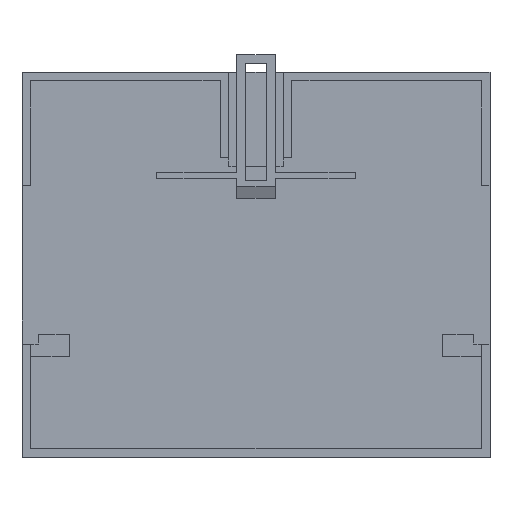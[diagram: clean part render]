
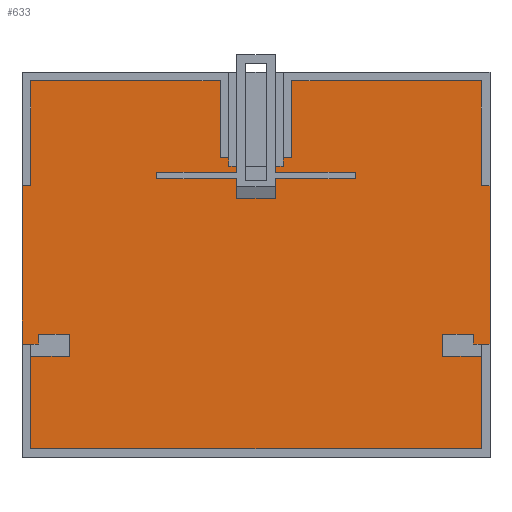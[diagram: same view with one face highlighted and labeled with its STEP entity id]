
A CAD part, front view. The second image highlights one B-rep face of the part: STEP entity #633.
In plain terms, the highlighted planar face has unit normal (0, -1, 0).
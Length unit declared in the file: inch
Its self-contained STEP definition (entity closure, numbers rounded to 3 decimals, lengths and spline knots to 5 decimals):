
#268=CARTESIAN_POINT('',(-0.17,0.2,0.694));
#269=VERTEX_POINT('',#268);
#276=CARTESIAN_POINT('',(0.17,0.2,0.694));
#277=VERTEX_POINT('',#276);
#278=CARTESIAN_POINT('',(0.17,0.2,0.694));
#279=DIRECTION('',(-1.0,0.0,0.0));
#280=VECTOR('',#279,0.34);
#281=LINE('',#278,#280);
#282=EDGE_CURVE('',#277,#269,#281,.T.);
#387=CARTESIAN_POINT('',(0.17,0.2,0.8625));
#388=VERTEX_POINT('',#387);
#395=CARTESIAN_POINT('',(0.24,0.2,0.8625));
#396=VERTEX_POINT('',#395);
#397=CARTESIAN_POINT('',(0.24,0.2,0.8625));
#398=DIRECTION('',(-1.0,0.0,0.0));
#399=VECTOR('',#398,0.07);
#400=LINE('',#397,#399);
#401=EDGE_CURVE('',#396,#388,#400,.T.);
#420=CARTESIAN_POINT('',(2.05,0.2,-0.694));
#421=DIRECTION('',(0.0,1.0,0.0));
#422=DIRECTION('',(0.0,0.0,1.0));
#423=AXIS2_PLACEMENT_3D('',#420,#421,#422);
#424=PLANE('',#423);
#425=CARTESIAN_POINT('',(-0.17,0.2,0.8625));
#426=VERTEX_POINT('',#425);
#427=CARTESIAN_POINT('',(-0.17,0.2,0.694));
#428=DIRECTION('',(0.0,0.0,1.0));
#429=VECTOR('',#428,0.1685);
#430=LINE('',#427,#429);
#431=EDGE_CURVE('',#269,#426,#430,.T.);
#432=ORIENTED_EDGE('',*,*,#431,.T.);
#433=CARTESIAN_POINT('',(-0.24,0.2,0.8625));
#434=VERTEX_POINT('',#433);
#435=CARTESIAN_POINT('',(-0.17,0.2,0.8625));
#436=DIRECTION('',(-1.0,0.0,0.0));
#437=VECTOR('',#436,0.07);
#438=LINE('',#435,#437);
#439=EDGE_CURVE('',#426,#434,#438,.T.);
#440=ORIENTED_EDGE('',*,*,#439,.T.);
#441=CARTESIAN_POINT('',(-0.24,0.2,0.9375));
#442=VERTEX_POINT('',#441);
#443=CARTESIAN_POINT('',(-0.24,0.2,0.8625));
#444=DIRECTION('',(0.0,0.0,1.0));
#445=VECTOR('',#444,0.075);
#446=LINE('',#443,#445);
#447=EDGE_CURVE('',#434,#442,#446,.T.);
#448=ORIENTED_EDGE('',*,*,#447,.T.);
#449=CARTESIAN_POINT('',(-0.315,0.2,0.9375));
#450=VERTEX_POINT('',#449);
#451=CARTESIAN_POINT('',(-0.24,0.2,0.9375));
#452=DIRECTION('',(-1.0,0.0,0.0));
#453=VECTOR('',#452,0.075);
#454=LINE('',#451,#453);
#455=EDGE_CURVE('',#442,#450,#454,.T.);
#456=ORIENTED_EDGE('',*,*,#455,.T.);
#457=CARTESIAN_POINT('',(-0.315,0.2,1.6125));
#458=VERTEX_POINT('',#457);
#459=CARTESIAN_POINT('',(-0.315,0.2,0.9375));
#460=DIRECTION('',(0.0,0.0,1.0));
#461=VECTOR('',#460,0.675);
#462=LINE('',#459,#461);
#463=EDGE_CURVE('',#450,#458,#462,.T.);
#464=ORIENTED_EDGE('',*,*,#463,.T.);
#465=CARTESIAN_POINT('',(-1.975,0.2,1.6125));
#466=VERTEX_POINT('',#465);
#467=CARTESIAN_POINT('',(-0.315,0.2,1.6125));
#468=DIRECTION('',(-1.0,0.0,0.0));
#469=VECTOR('',#468,1.66);
#470=LINE('',#467,#469);
#471=EDGE_CURVE('',#458,#466,#470,.T.);
#472=ORIENTED_EDGE('',*,*,#471,.T.);
#473=CARTESIAN_POINT('',(-1.975,0.2,0.694));
#474=VERTEX_POINT('',#473);
#475=CARTESIAN_POINT('',(-1.975,0.2,1.6125));
#476=DIRECTION('',(0.0,0.0,-1.0));
#477=VECTOR('',#476,0.9185);
#478=LINE('',#475,#477);
#479=EDGE_CURVE('',#466,#474,#478,.T.);
#480=ORIENTED_EDGE('',*,*,#479,.T.);
#481=CARTESIAN_POINT('',(-2.05,0.2,0.694));
#482=VERTEX_POINT('',#481);
#483=CARTESIAN_POINT('',(-1.975,0.2,0.694));
#484=DIRECTION('',(-1.0,0.0,0.0));
#485=VECTOR('',#484,0.075);
#486=LINE('',#483,#485);
#487=EDGE_CURVE('',#474,#482,#486,.T.);
#488=ORIENTED_EDGE('',*,*,#487,.T.);
#489=CARTESIAN_POINT('',(-2.05,0.2,-0.694));
#490=VERTEX_POINT('',#489);
#491=CARTESIAN_POINT('',(-2.05,0.2,-0.694));
#492=DIRECTION('',(0.0,0.0,1.0));
#493=VECTOR('',#492,1.388);
#494=LINE('',#491,#493);
#495=EDGE_CURVE('',#490,#482,#494,.T.);
#496=ORIENTED_EDGE('',*,*,#495,.F.);
#497=CARTESIAN_POINT('',(-1.635,0.2,-0.694));
#498=VERTEX_POINT('',#497);
#499=CARTESIAN_POINT('',(-2.05,0.2,-0.694));
#500=DIRECTION('',(1.0,0.0,0.0));
#501=VECTOR('',#500,0.415);
#502=LINE('',#499,#501);
#503=EDGE_CURVE('',#490,#498,#502,.T.);
#504=ORIENTED_EDGE('',*,*,#503,.T.);
#505=CARTESIAN_POINT('',(-1.635,0.2,-0.802));
#506=VERTEX_POINT('',#505);
#507=CARTESIAN_POINT('',(-1.635,0.2,-0.694));
#508=DIRECTION('',(0.0,0.0,-1.0));
#509=VECTOR('',#508,0.108);
#510=LINE('',#507,#509);
#511=EDGE_CURVE('',#498,#506,#510,.T.);
#512=ORIENTED_EDGE('',*,*,#511,.T.);
#513=CARTESIAN_POINT('',(-1.975,0.2,-0.802));
#514=VERTEX_POINT('',#513);
#515=CARTESIAN_POINT('',(-1.635,0.2,-0.802));
#516=DIRECTION('',(-1.0,0.0,0.0));
#517=VECTOR('',#516,0.34);
#518=LINE('',#515,#517);
#519=EDGE_CURVE('',#506,#514,#518,.T.);
#520=ORIENTED_EDGE('',*,*,#519,.T.);
#521=CARTESIAN_POINT('',(-1.975,0.2,-1.6125));
#522=VERTEX_POINT('',#521);
#523=CARTESIAN_POINT('',(-1.975,0.2,-0.802));
#524=DIRECTION('',(0.0,0.0,-1.0));
#525=VECTOR('',#524,0.8105);
#526=LINE('',#523,#525);
#527=EDGE_CURVE('',#514,#522,#526,.T.);
#528=ORIENTED_EDGE('',*,*,#527,.T.);
#529=CARTESIAN_POINT('',(1.975,0.2,-1.6125));
#530=VERTEX_POINT('',#529);
#531=CARTESIAN_POINT('',(-1.975,0.2,-1.6125));
#532=DIRECTION('',(1.0,0.0,0.0));
#533=VECTOR('',#532,3.95);
#534=LINE('',#531,#533);
#535=EDGE_CURVE('',#522,#530,#534,.T.);
#536=ORIENTED_EDGE('',*,*,#535,.T.);
#537=CARTESIAN_POINT('',(1.975,0.2,-0.802));
#538=VERTEX_POINT('',#537);
#539=CARTESIAN_POINT('',(1.975,0.2,-1.6125));
#540=DIRECTION('',(0.0,0.0,1.0));
#541=VECTOR('',#540,0.8105);
#542=LINE('',#539,#541);
#543=EDGE_CURVE('',#530,#538,#542,.T.);
#544=ORIENTED_EDGE('',*,*,#543,.T.);
#545=CARTESIAN_POINT('',(1.635,0.2,-0.802));
#546=VERTEX_POINT('',#545);
#547=CARTESIAN_POINT('',(1.975,0.2,-0.802));
#548=DIRECTION('',(-1.0,0.0,0.0));
#549=VECTOR('',#548,0.34);
#550=LINE('',#547,#549);
#551=EDGE_CURVE('',#538,#546,#550,.T.);
#552=ORIENTED_EDGE('',*,*,#551,.T.);
#553=CARTESIAN_POINT('',(1.635,0.2,-0.694));
#554=VERTEX_POINT('',#553);
#555=CARTESIAN_POINT('',(1.635,0.2,-0.802));
#556=DIRECTION('',(0.0,0.0,1.0));
#557=VECTOR('',#556,0.108);
#558=LINE('',#555,#557);
#559=EDGE_CURVE('',#546,#554,#558,.T.);
#560=ORIENTED_EDGE('',*,*,#559,.T.);
#561=CARTESIAN_POINT('',(2.05,0.2,-0.694));
#562=VERTEX_POINT('',#561);
#563=CARTESIAN_POINT('',(2.05,0.2,-0.694));
#564=DIRECTION('',(-1.0,0.0,0.0));
#565=VECTOR('',#564,0.415);
#566=LINE('',#563,#565);
#567=EDGE_CURVE('',#562,#554,#566,.T.);
#568=ORIENTED_EDGE('',*,*,#567,.F.);
#569=CARTESIAN_POINT('',(2.05,0.2,0.694));
#570=VERTEX_POINT('',#569);
#571=CARTESIAN_POINT('',(2.05,0.2,0.694));
#572=DIRECTION('',(0.0,0.0,-1.0));
#573=VECTOR('',#572,1.388);
#574=LINE('',#571,#573);
#575=EDGE_CURVE('',#570,#562,#574,.T.);
#576=ORIENTED_EDGE('',*,*,#575,.F.);
#577=CARTESIAN_POINT('',(1.975,0.2,0.694));
#578=VERTEX_POINT('',#577);
#579=CARTESIAN_POINT('',(2.05,0.2,0.694));
#580=DIRECTION('',(-1.0,0.0,0.0));
#581=VECTOR('',#580,0.075);
#582=LINE('',#579,#581);
#583=EDGE_CURVE('',#570,#578,#582,.T.);
#584=ORIENTED_EDGE('',*,*,#583,.T.);
#585=CARTESIAN_POINT('',(1.975,0.2,1.6125));
#586=VERTEX_POINT('',#585);
#587=CARTESIAN_POINT('',(1.975,0.2,0.694));
#588=DIRECTION('',(0.0,0.0,1.0));
#589=VECTOR('',#588,0.9185);
#590=LINE('',#587,#589);
#591=EDGE_CURVE('',#578,#586,#590,.T.);
#592=ORIENTED_EDGE('',*,*,#591,.T.);
#593=CARTESIAN_POINT('',(0.315,0.2,1.6125));
#594=VERTEX_POINT('',#593);
#595=CARTESIAN_POINT('',(1.975,0.2,1.6125));
#596=DIRECTION('',(-1.0,0.0,0.0));
#597=VECTOR('',#596,1.66);
#598=LINE('',#595,#597);
#599=EDGE_CURVE('',#586,#594,#598,.T.);
#600=ORIENTED_EDGE('',*,*,#599,.T.);
#601=CARTESIAN_POINT('',(0.315,0.2,0.9375));
#602=VERTEX_POINT('',#601);
#603=CARTESIAN_POINT('',(0.315,0.2,1.6125));
#604=DIRECTION('',(0.0,0.0,-1.0));
#605=VECTOR('',#604,0.675);
#606=LINE('',#603,#605);
#607=EDGE_CURVE('',#594,#602,#606,.T.);
#608=ORIENTED_EDGE('',*,*,#607,.T.);
#609=CARTESIAN_POINT('',(0.24,0.2,0.9375));
#610=VERTEX_POINT('',#609);
#611=CARTESIAN_POINT('',(0.315,0.2,0.9375));
#612=DIRECTION('',(-1.0,0.0,0.0));
#613=VECTOR('',#612,0.075);
#614=LINE('',#611,#613);
#615=EDGE_CURVE('',#602,#610,#614,.T.);
#616=ORIENTED_EDGE('',*,*,#615,.T.);
#617=CARTESIAN_POINT('',(0.24,0.2,0.9375));
#618=DIRECTION('',(0.0,0.0,-1.0));
#619=VECTOR('',#618,0.075);
#620=LINE('',#617,#619);
#621=EDGE_CURVE('',#610,#396,#620,.T.);
#622=ORIENTED_EDGE('',*,*,#621,.T.);
#623=ORIENTED_EDGE('',*,*,#401,.T.);
#624=CARTESIAN_POINT('',(0.17,0.2,0.8625));
#625=DIRECTION('',(0.0,0.0,-1.0));
#626=VECTOR('',#625,0.1685);
#627=LINE('',#624,#626);
#628=EDGE_CURVE('',#388,#277,#627,.T.);
#629=ORIENTED_EDGE('',*,*,#628,.T.);
#630=ORIENTED_EDGE('',*,*,#282,.T.);
#631=EDGE_LOOP('',(#432,#440,#448,#456,#464,#472,#480,#488,#496,#504,#512,#520,#528,#536,#544,#552,#560,#568,#576,#584,#592,#600,#608,#616,#622,#623,#629,#630));
#632=FACE_OUTER_BOUND('',#631,.T.);
#633=ADVANCED_FACE('',(#632),#424,.F.);
